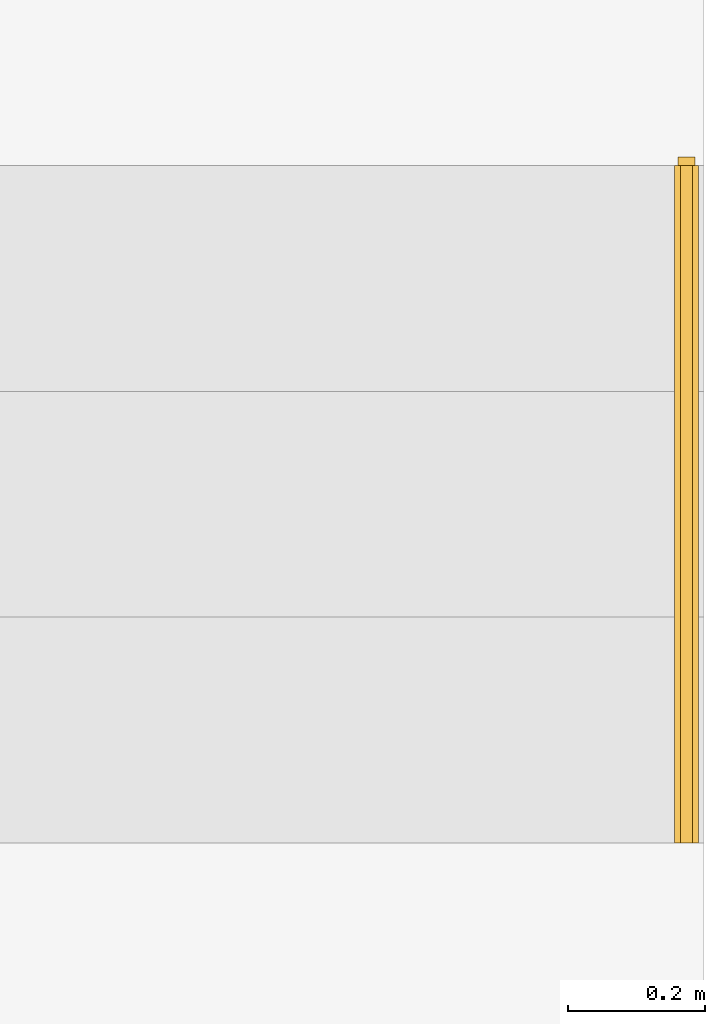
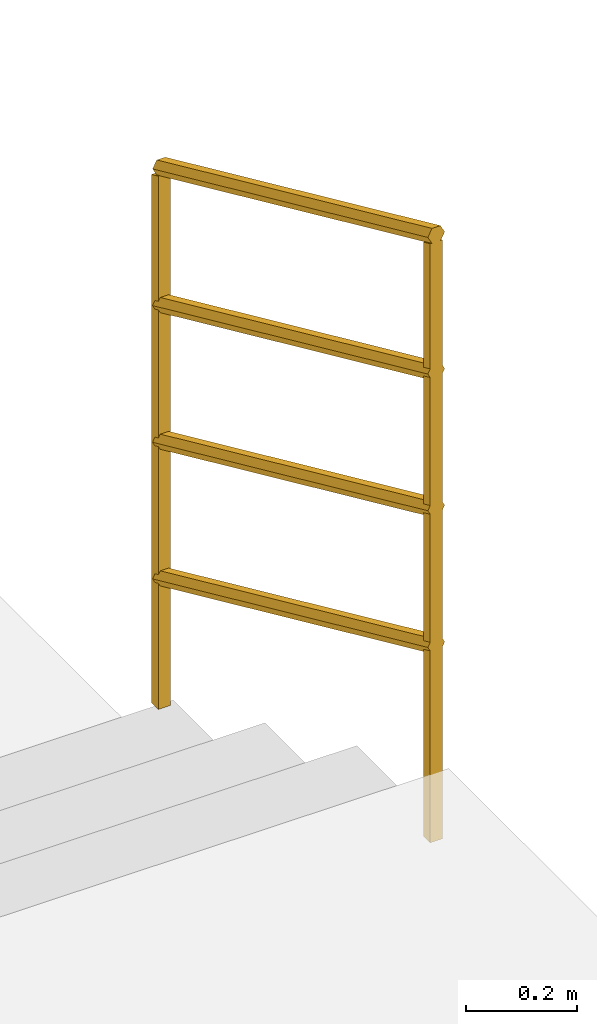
# One storey, part 85 of 100: 1 railing, 1 element without a shape of its own.
"""IFC2X3 building model written with IfcOpenShell, lengths in millimetres."""

from ifc_helpers import new_model, entity, si_unit, converted_unit, derived_unit, direction, frame, origin, place, context, subcontext, project, spatial, faceted_brep, material, material_list, element, aggregate, save


model = new_model("IFC2X3")

# Units and contexts
model_context = context("Model", 3, precision=0.01, world=origin(), true_north=direction((6.123031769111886e-17, 1.0)))
body_context = subcontext(model_context, "Body", "Model", "MODEL_VIEW")
ifc_project = project(units=[si_unit("LENGTHUNIT", "METRE", prefix="MILLI"), si_unit("AREAUNIT", "SQUARE_METRE"), si_unit("VOLUMEUNIT", "CUBIC_METRE"), converted_unit("PLANEANGLEUNIT", "DEGREE", entity("IfcRatioMeasure", 0.017453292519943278), si_unit("PLANEANGLEUNIT", "RADIAN"), dimensions=[0, 0, 0, 0, 0, 0, 0]), si_unit("MASSUNIT", "GRAM", prefix="KILO"), derived_unit("MASSDENSITYUNIT", [(si_unit("MASSUNIT", "GRAM", prefix="KILO"), 1), (si_unit("LENGTHUNIT", "METRE"), -3)]), derived_unit("MOMENTOFINERTIAUNIT", [(si_unit("LENGTHUNIT", "METRE"), 4)]), si_unit("TIMEUNIT", "SECOND"), si_unit("FREQUENCYUNIT", "HERTZ"), si_unit("THERMODYNAMICTEMPERATUREUNIT", "DEGREE_CELSIUS"), derived_unit("THERMALTRANSMITTANCEUNIT", [(si_unit("MASSUNIT", "GRAM", prefix="KILO"), 1), (si_unit("THERMODYNAMICTEMPERATUREUNIT", "KELVIN"), -1), (si_unit("TIMEUNIT", "SECOND"), -3)]), derived_unit("VOLUMETRICFLOWRATEUNIT", [(si_unit("LENGTHUNIT", "METRE"), 3), (si_unit("TIMEUNIT", "SECOND"), -1)]), derived_unit("MASSFLOWRATEUNIT", [(si_unit("MASSUNIT", "GRAM", prefix="KILO"), 1), (si_unit("TIMEUNIT", "SECOND"), -1)]), derived_unit("ROTATIONALFREQUENCYUNIT", [(si_unit("TIMEUNIT", "SECOND"), -1)]), si_unit("ELECTRICCURRENTUNIT", "AMPERE"), si_unit("ELECTRICVOLTAGEUNIT", "VOLT"), si_unit("POWERUNIT", "WATT"), si_unit("FORCEUNIT", "NEWTON", prefix="KILO"), si_unit("ILLUMINANCEUNIT", "LUX"), si_unit("LUMINOUSFLUXUNIT", "LUMEN"), si_unit("LUMINOUSINTENSITYUNIT", "CANDELA"), derived_unit("USERDEFINED", [(si_unit("MASSUNIT", "GRAM", prefix="KILO"), -1), (si_unit("LENGTHUNIT", "METRE"), -2), (si_unit("TIMEUNIT", "SECOND"), 3), (si_unit("LUMINOUSFLUXUNIT", "LUMEN"), 1)]), derived_unit("SOUNDPOWERUNIT", [(si_unit("MASSUNIT", "GRAM", prefix="KILO"), 1), (si_unit("LENGTHUNIT", "METRE"), 2), (si_unit("TIMEUNIT", "SECOND"), -3)]), derived_unit("SOUNDPRESSUREUNIT", [(si_unit("MASSUNIT", "GRAM", prefix="KILO"), 1), (si_unit("LENGTHUNIT", "METRE"), -1), (si_unit("TIMEUNIT", "SECOND"), -2)]), derived_unit("LINEARVELOCITYUNIT", [(si_unit("LENGTHUNIT", "METRE"), 1), (si_unit("TIMEUNIT", "SECOND"), -1)]), si_unit("PRESSUREUNIT", "PASCAL"), derived_unit("USERDEFINED", [(si_unit("LENGTHUNIT", "METRE"), -2), (si_unit("MASSUNIT", "GRAM", prefix="KILO"), 1), (si_unit("TIMEUNIT", "SECOND"), -2)]), derived_unit("LINEARFORCEUNIT", [(si_unit("MASSUNIT", "GRAM", prefix="KILO"), 1), (si_unit("LENGTHUNIT", "METRE"), 1), (si_unit("TIMEUNIT", "SECOND"), -2), (si_unit("LENGTHUNIT", "METRE"), -1)]), derived_unit("PLANARFORCEUNIT", [(si_unit("MASSUNIT", "GRAM", prefix="KILO"), 1), (si_unit("LENGTHUNIT", "METRE"), 1), (si_unit("TIMEUNIT", "SECOND"), -2), (si_unit("LENGTHUNIT", "METRE"), -2)])], contexts=[model_context])

# Site, building, storey
site_placement = place(None, frame((-14167.972527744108, -657.2125860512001, 0.0)))
site = spatial("IfcSite", under=ifc_project, at=site_placement, Name="Default", CompositionType="ELEMENT")
building_placement = place(site_placement, origin())
building = spatial("IfcBuilding", under=site, at=building_placement, Name="Sample Building", CompositionType="ELEMENT")
storey_placement = place(building_placement, origin())
storey = spatial("IfcBuildingStorey", under=building, at=storey_placement, Name="지상 1층", CompositionType="ELEMENT", Elevation=0.0)

# Stair, railing
stair_placement = place(storey_placement, origin())
stair = element("IfcStair", 1, at=stair_placement, inside=storey, Name="현장타설 계단:계단", ObjectType="현장타설 계단:ST111-철근콘크리트구조 계단 (직선형)", ShapeType="STRAIGHT_RUN_STAIR")
ifc_material_1 = material(Name="KBIMS-난간")
ifc_material_2 = material(Name="KBIMS-금속재")
ifc_material_list = material_list([ifc_material_1, ifc_material_1, ifc_material_2, ifc_material_2, ifc_material_2, ifc_material_2])
railing_placement = place(stair_placement, frame((53023.47721889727, 28447.21229514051, -1950.0)))
railing = element("IfcRailing", 2, at=railing_placement, material=ifc_material_list, Name="난간:RL780-금속재 난간", ObjectType="난간:RL780-금속재 난간", PredefinedType="NOTDEFINED", context=body_context, shape_type="Brep", body=[
    faceted_brep([(31.59527223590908, 25.0, 1603.6363636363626), (31.595272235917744, 25.0, 300.0), (6.595272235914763, 25.0, 300.0), (6.595272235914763, 25.0, 1603.6363636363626), (31.59527223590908, 0.0, 1615.0), (31.59527223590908, 0.0, 300.0), (6.595272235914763, 0.0, 1615.0), (6.5952722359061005, 0.0, 300.0)], [[[0, 1, 2, 3]], [[4, 5, 1, 0]], [[6, 7, 5, 4]], [[3, 2, 7, 6]], [[3, 6, 4, 0]], [[1, 5, 7, 2]]]),
    faceted_brep([(31.59527223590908, 1002.4999999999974, 1159.3181818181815), (31.595272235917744, 1002.4999999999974, 0.0), (6.595272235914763, 1002.4999999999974, 0.0), (6.595272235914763, 1002.4999999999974, 1159.3181818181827), (31.59527223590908, 977.4999999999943, 1170.6818181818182), (31.59527223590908, 977.4999999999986, 0.0), (6.595272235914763, 977.4999999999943, 1170.6818181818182), (6.5952722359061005, 977.4999999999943, 0.0)], [[[0, 1, 2, 3]], [[4, 5, 1, 0]], [[6, 7, 5, 4]], [[3, 2, 7, 6]], [[3, 6, 4, 0]], [[1, 5, 7, 2]]]),
    faceted_brep([(30.032772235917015, 990.0, 1193.2626950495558), (32.220272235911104, 990.0, 1189.1007874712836), (35.03959954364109, 990.0, 1183.7367738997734), (36.59527223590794, 990.0, 1180.776972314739), (34.40777223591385, 990.0, 1176.6150647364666), (32.220272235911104, 990.0, 1172.4531571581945), (30.032772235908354, 990.0, 1168.2912495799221), (27.845272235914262, 990.0, 1164.1293420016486), (23.470272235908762, 990.0, 1164.1293420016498), (19.09527223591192, 990.0, 1164.1293420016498), (14.72027223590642, 990.0, 1164.1293420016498), (10.34527223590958, 990.0, 1164.1293420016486), (8.157772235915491, 990.0, 1168.2912495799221), (5.97027223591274, 990.0, 1172.4531571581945), (3.782772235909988, 990.0, 1176.6150647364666), (1.5952722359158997, 990.0, 1180.776972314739), (3.150944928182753, 990.0, 1183.7367738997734), (4.706617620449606, 990.0, 1186.6965754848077), (7.525944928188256, 990.0, 1192.060589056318), (10.34527223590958, 990.0, 1197.424602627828), (14.720272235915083, 990.0, 1197.424602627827), (19.09527223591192, 990.0, 1197.424602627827), (23.470272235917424, 990.0, 1197.424602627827), (27.845272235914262, 990.0, 1197.424602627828), (10.34527223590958, 0.0, 1647.4246026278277), (8.157772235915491, 0.0, 1643.2626950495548), (5.97027223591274, 0.0, 1639.1007874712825), (3.782772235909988, 0.0, 1634.9388798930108), (1.5952722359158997, 0.0, 1630.7769723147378), (3.150944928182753, 0.0, 1627.8171707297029), (5.970272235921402, 0.0, 1622.4531571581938), (8.157772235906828, 0.0, 1618.2912495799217), (10.34527223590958, 0.0, 1614.1293420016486), (14.720272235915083, 0.0, 1614.1293420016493), (19.09527223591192, 0.0, 1614.1293420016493), (23.470272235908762, 0.0, 1614.1293420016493), (27.845272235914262, 0.0, 1614.1293420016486), (30.66459954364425, 0.0, 1619.4933555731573), (33.483926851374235, 0.0, 1624.8573691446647), (35.03959954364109, 0.0, 1627.817170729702), (36.59527223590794, 0.0, 1630.7769723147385), (34.40777223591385, 0.0, 1634.9388798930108), (32.220272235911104, 0.0, 1639.100787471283), (30.032772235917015, 0.0, 1643.2626950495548), (27.845272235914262, 0.0, 1647.4246026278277), (23.470272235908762, 0.0, 1647.424602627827), (19.09527223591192, 0.0, 1647.424602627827), (14.720272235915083, 0.0, 1647.424602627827)], [[[0, 1, 2, 3, 4, 5, 6, 7, 8, 9, 10, 11, 12, 13, 14, 15, 16, 17, 18, 19, 20, 21, 22, 23]], [[24, 25, 26, 27, 28, 29, 30, 31, 32, 33, 34, 35, 36, 37, 38, 39, 40, 41, 42, 43, 44, 45, 46, 47]], [[19, 18, 17, 16, 15, 28, 27, 26, 25, 24]], [[1, 0, 23, 44, 43, 42, 41, 40, 3, 2]], [[21, 20, 19, 24, 47, 46, 45, 44, 23, 22]], [[36, 7, 6, 5, 4, 3, 40, 39, 38, 37]], [[33, 32, 11, 10, 9, 8, 7, 36, 35, 34]], [[29, 28, 15, 14, 13, 12, 11, 32, 31, 30]]]),
    faceted_brep([(30.032772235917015, 990.0, 893.2626950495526), (32.220272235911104, 990.0, 889.1007874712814), (35.03959954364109, 990.0, 883.7367738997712), (36.59527223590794, 990.0, 880.7769723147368), (34.40777223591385, 990.0, 876.6150647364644), (32.220272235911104, 990.0, 872.4531571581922), (30.032772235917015, 990.0, 868.2912495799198), (27.845272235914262, 990.0, 864.1293420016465), (23.470272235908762, 990.0, 864.1293420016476), (19.09527223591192, 990.0, 864.1293420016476), (14.720272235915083, 990.0, 864.1293420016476), (10.34527223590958, 990.0, 864.1293420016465), (8.157772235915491, 990.0, 868.2912495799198), (5.97027223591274, 990.0, 872.4531571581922), (3.7827722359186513, 990.0, 876.6150647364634), (1.5952722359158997, 990.0, 880.7769723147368), (3.150944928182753, 990.0, 883.7367738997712), (4.706617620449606, 990.0, 886.6965754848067), (7.525944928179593, 990.0, 892.0605890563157), (10.34527223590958, 990.0, 897.424602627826), (14.720272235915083, 990.0, 897.4246026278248), (19.09527223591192, 990.0, 897.4246026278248), (23.470272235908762, 990.0, 897.4246026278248), (27.845272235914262, 990.0, 897.424602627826), (10.34527223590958, 0.0, 1347.4246026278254), (8.157772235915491, 0.0, 1343.2626950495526), (5.97027223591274, 0.0, 1339.100787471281), (3.782772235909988, 0.0, 1334.9388798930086), (1.5952722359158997, 0.0, 1330.7769723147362), (3.1509449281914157, 0.0, 1327.8171707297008), (5.97027223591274, 0.0, 1322.4531571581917), (8.157772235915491, 0.0, 1318.2912495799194), (10.34527223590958, 0.0, 1314.1293420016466), (14.720272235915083, 0.0, 1314.129342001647), (19.095272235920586, 0.0, 1314.129342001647), (23.470272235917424, 0.0, 1314.129342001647), (27.845272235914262, 0.0, 1314.129342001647), (30.66459954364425, 0.0, 1319.4933555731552), (33.483926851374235, 0.0, 1324.8573691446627), (35.03959954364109, 0.0, 1327.8171707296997), (36.59527223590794, 0.0, 1330.7769723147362), (34.40777223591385, 0.0, 1334.9388798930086), (32.220272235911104, 0.0, 1339.100787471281), (30.032772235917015, 0.0, 1343.262695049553), (27.845272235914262, 0.0, 1347.4246026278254), (23.470272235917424, 0.0, 1347.424602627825), (19.09527223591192, 0.0, 1347.424602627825), (14.720272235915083, 0.0, 1347.424602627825)], [[[0, 1, 2, 3, 4, 5, 6, 7, 8, 9, 10, 11, 12, 13, 14, 15, 16, 17, 18, 19, 20, 21, 22, 23]], [[24, 25, 26, 27, 28, 29, 30, 31, 32, 33, 34, 35, 36, 37, 38, 39, 40, 41, 42, 43, 44, 45, 46, 47]], [[19, 18, 17, 16, 15, 28, 27, 26, 25, 24]], [[1, 0, 23, 44, 43, 42, 41, 40, 3, 2]], [[21, 20, 19, 24, 47, 46, 45, 44, 23, 22]], [[36, 7, 6, 5, 4, 3, 40, 39, 38, 37]], [[33, 32, 11, 10, 9, 8, 7, 36, 35, 34]], [[29, 28, 15, 14, 13, 12, 11, 32, 31, 30]]]),
    faceted_brep([(30.032772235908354, 990.0, 593.2626950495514), (32.220272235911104, 990.0, 589.1007874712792), (35.03959954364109, 990.0, 583.736773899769), (36.59527223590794, 990.0, 580.7769723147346), (34.40777223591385, 990.0, 576.6150647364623), (32.220272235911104, 990.0, 572.45315715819), (30.032772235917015, 990.0, 568.2912495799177), (27.845272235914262, 990.0, 564.1293420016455), (23.470272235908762, 990.0, 564.1293420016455), (19.09527223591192, 990.0, 564.1293420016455), (14.72027223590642, 990.0, 564.1293420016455), (10.34527223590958, 990.0, 564.1293420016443), (8.157772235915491, 990.0, 568.2912495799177), (5.97027223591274, 990.0, 572.45315715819), (3.782772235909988, 990.0, 576.6150647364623), (1.5952722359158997, 990.0, 580.7769723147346), (3.150944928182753, 990.0, 583.736773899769), (4.706617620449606, 990.0, 586.6965754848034), (7.525944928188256, 990.0, 592.0605890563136), (10.34527223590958, 990.0, 597.4246026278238), (14.720272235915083, 990.0, 597.4246026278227), (19.09527223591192, 990.0, 597.4246026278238), (23.470272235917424, 990.0, 597.4246026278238), (27.845272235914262, 990.0, 597.4246026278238), (10.34527223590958, 0.0, 1047.4246026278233), (8.157772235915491, 0.0, 1043.262695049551), (5.97027223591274, 0.0, 1039.1007874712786), (3.782772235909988, 0.0, 1034.9388798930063), (1.5952722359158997, 0.0, 1030.7769723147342), (3.1509449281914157, 0.0, 1027.8171707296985), (5.97027223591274, 0.0, 1022.4531571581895), (8.157772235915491, 0.0, 1018.2912495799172), (10.34527223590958, 0.0, 1014.1293420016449), (14.720272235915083, 0.0, 1014.1293420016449), (19.09527223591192, 0.0, 1014.1293420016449), (23.470272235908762, 0.0, 1014.1293420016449), (27.845272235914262, 0.0, 1014.1293420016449), (30.66459954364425, 0.0, 1019.4933555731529), (33.483926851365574, 0.0, 1024.8573691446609), (35.03959954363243, 0.0, 1027.8171707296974), (36.59527223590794, 0.0, 1030.7769723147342), (34.40777223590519, 0.0, 1034.9388798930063), (32.220272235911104, 0.0, 1039.1007874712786), (30.032772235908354, 0.0, 1043.262695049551), (27.845272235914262, 0.0, 1047.4246026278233), (23.470272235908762, 0.0, 1047.4246026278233), (19.09527223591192, 0.0, 1047.4246026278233), (14.720272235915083, 0.0, 1047.4246026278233)], [[[0, 1, 2, 3, 4, 5, 6, 7, 8, 9, 10, 11, 12, 13, 14, 15, 16, 17, 18, 19, 20, 21, 22, 23]], [[24, 25, 26, 27, 28, 29, 30, 31, 32, 33, 34, 35, 36, 37, 38, 39, 40, 41, 42, 43, 44, 45, 46, 47]], [[19, 18, 17, 16, 15, 28, 27, 26, 25, 24]], [[1, 0, 23, 44, 43, 42, 41, 40, 3, 2]], [[21, 20, 19, 24, 47, 46, 45, 44, 23, 22]], [[36, 7, 6, 5, 4, 3, 40, 39, 38, 37]], [[33, 32, 11, 10, 9, 8, 7, 36, 35, 34]], [[29, 28, 15, 14, 13, 12, 11, 32, 31, 30]]]),
    faceted_brep([(30.032772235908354, 990.0, 293.26269504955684), (32.220272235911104, 990.0, 289.10078747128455), (35.03959954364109, 990.0, 283.73677389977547), (36.59527223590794, 990.0, 280.77697231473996), (34.40777223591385, 990.0, 276.6150647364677), (32.220272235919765, 990.0, 272.4531571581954), (30.032772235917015, 990.0, 268.2912495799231), (27.845272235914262, 990.0, 264.1293420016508), (23.470272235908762, 990.0, 264.1293420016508), (19.095272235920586, 990.0, 264.1293420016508), (14.72027223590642, 990.0, 264.1293420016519), (10.34527223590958, 990.0, 264.1293420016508), (8.157772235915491, 990.0, 268.2912495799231), (5.97027223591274, 990.0, 272.4531571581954), (3.782772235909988, 990.0, 276.6150647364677), (1.5952722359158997, 990.0, 280.77697231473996), (3.150944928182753, 990.0, 283.73677389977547), (4.706617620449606, 990.0, 286.6965754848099), (7.525944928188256, 990.0, 292.060589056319), (10.34527223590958, 990.0, 297.42460262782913), (14.720272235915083, 990.0, 297.42460262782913), (19.09527223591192, 990.0, 297.42460262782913), (23.470272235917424, 990.0, 297.42460262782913), (27.845272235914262, 990.0, 297.42460262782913), (10.34527223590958, 0.0, 747.4246026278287), (8.157772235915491, 0.0, 743.2626950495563), (5.97027223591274, 0.0, 739.1007874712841), (3.7827722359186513, 0.0, 734.9388798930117), (1.5952722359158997, 0.0, 730.7769723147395), (3.150944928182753, 0.0, 727.817170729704), (5.97027223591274, 0.0, 722.4531571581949), (8.157772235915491, 0.0, 718.2912495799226), (10.34527223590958, 0.0, 714.1293420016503), (14.720272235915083, 0.0, 714.1293420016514), (19.09527223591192, 0.0, 714.1293420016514), (23.470272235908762, 0.0, 714.1293420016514), (27.845272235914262, 0.0, 714.1293420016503), (30.66459954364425, 0.0, 719.4933555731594), (33.483926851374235, 0.0, 724.8573691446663), (35.03959954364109, 0.0, 727.817170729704), (36.59527223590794, 0.0, 730.7769723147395), (34.40777223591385, 0.0, 734.9388798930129), (32.220272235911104, 0.0, 739.1007874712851), (30.032772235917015, 0.0, 743.2626950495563), (27.845272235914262, 0.0, 747.4246026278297), (23.470272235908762, 0.0, 747.4246026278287), (19.09527223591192, 0.0, 747.4246026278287), (14.720272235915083, 0.0, 747.4246026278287)], [[[0, 1, 2, 3, 4, 5, 6, 7, 8, 9, 10, 11, 12, 13, 14, 15, 16, 17, 18, 19, 20, 21, 22, 23]], [[24, 25, 26, 27, 28, 29, 30, 31, 32, 33, 34, 35, 36, 37, 38, 39, 40, 41, 42, 43, 44, 45, 46, 47]], [[19, 18, 17, 16, 15, 28, 27, 26, 25, 24]], [[1, 0, 23, 44, 43, 42, 41, 40, 3, 2]], [[21, 20, 19, 24, 47, 46, 45, 44, 23, 22]], [[36, 7, 6, 5, 4, 3, 40, 39, 38, 37]], [[33, 32, 11, 10, 9, 8, 7, 36, 35, 34]], [[29, 28, 15, 14, 13, 12, 11, 32, 31, 30]]]),
])
aggregate(stair, [railing])

save(model, "model.ifc")
